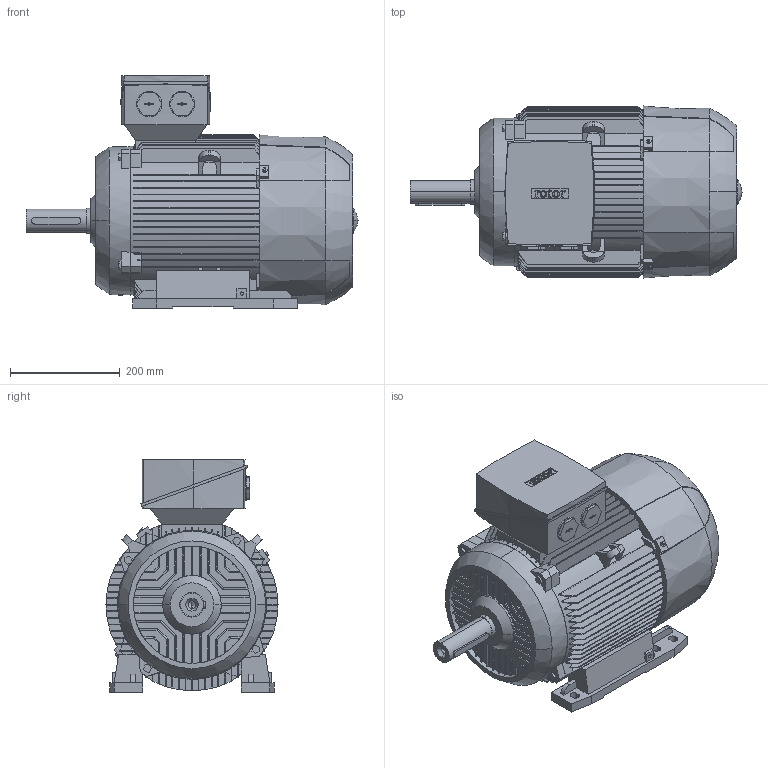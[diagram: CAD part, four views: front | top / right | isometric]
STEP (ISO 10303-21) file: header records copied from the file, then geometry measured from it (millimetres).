
FILE_DESCRIPTION (( 'STEP AP214' ), '1' );
FILE_NAME ('6RN160L02E14 IM1041.STEP', '2016-12-29T10:40:04', ( 'rbc_ict' ), ( 'Microsoft' ), 'SwSTEP 2.0', 'SolidWorks 2015', '' );
FILE_SCHEMA (( 'AUTOMOTIVE_DESIGN' ));
Length unit declared in the file: millimetre
Products named in the file (1): 6RN160L02E14 IM1041
Bounding box: 606 x 314 x 425 mm (x, y, z)
Volume: 34461294.3 mm3; surface area: 1354479.6 mm2
Topology: 1 solids, 1 shells, 1294 faces, 3669 edges, 2406 vertices
Faces by surface type: plane 810, cylinder 277, torus 121, bspline 62, cone 24
Entity records: 60953 total; most frequent: CARTESIAN_POINT 16120, ORIENTED_EDGE 7330, DIRECTION 5702, EDGE_CURVE 3665, VERTEX_POINT 2406, VECTOR 2098, LINE 2098, AXIS2_PLACEMENT_3D 1802
